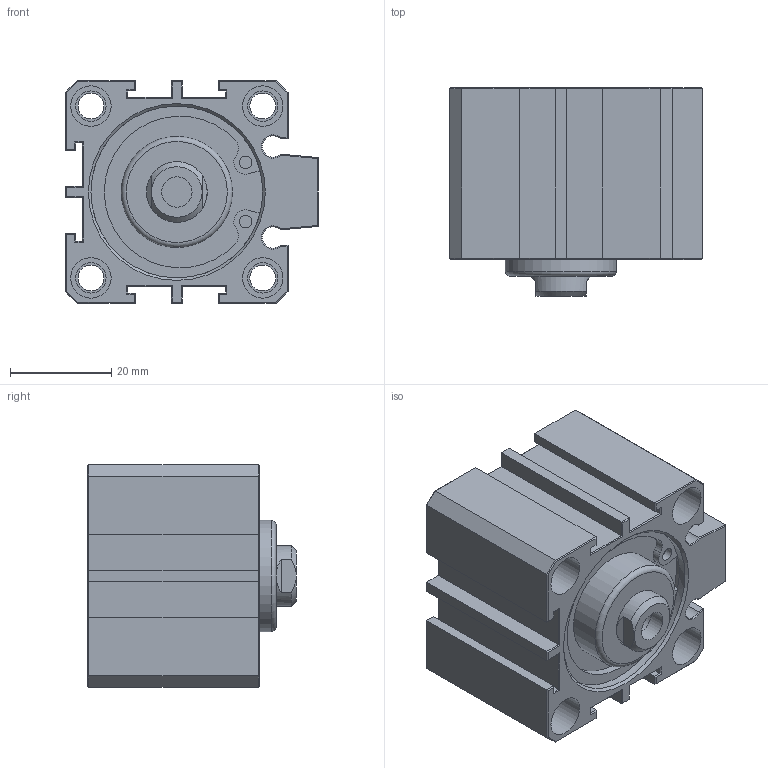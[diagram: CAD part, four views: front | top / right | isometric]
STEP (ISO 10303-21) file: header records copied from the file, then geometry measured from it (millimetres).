
FILE_DESCRIPTION(/* description */ (''),/* implementation_level */ '2;1');
FILE_NAME(/* name */ 'AJC-SD32X10N',/* time_stamp */ '2019-06-13T14:26:05+08:00',/* author */ ('JEFF HUANG'),/* organization */ ('TAIWAN AMAC CLAMP INDUSTRIAL CO., LTD.'),/* preprocessor_version */ 'ST-DEVELOPER v16.7',/* originating_system */ 'DEX',/* authorisation */ $);
FILE_SCHEMA (('AUTOMOTIVE_DESIGN {1 0 10303 214 3 1 1}'));
Length unit declared in the file: millimetre
Products named in the file (1): AJC-SD32X10N
Bounding box: 50 x 41.3 x 44 mm (x, y, z)
Volume: 53966.3 mm3; surface area: 17318.4 mm2
Topology: 1 solids, 1 shells, 254 faces, 553 edges, 329 vertices
Faces by surface type: plane 192, cylinder 48, cone 10, torus 2, sphere 2
Full cylindrical faces by diameter (mm): 2.5 x4, 5.1 x4, 6 x10, 8 x8, 9.147 x2, 22 x1, 23 x1, 34 x2
Entity records: 8334 total; most frequent: CARTESIAN_POINT 1125, DIRECTION 1122, ORIENTED_EDGE 1018, EDGE_CURVE 509, LINE 382, VECTOR 382, AXIS2_PLACEMENT_3D 370, EDGE_LOOP 330
